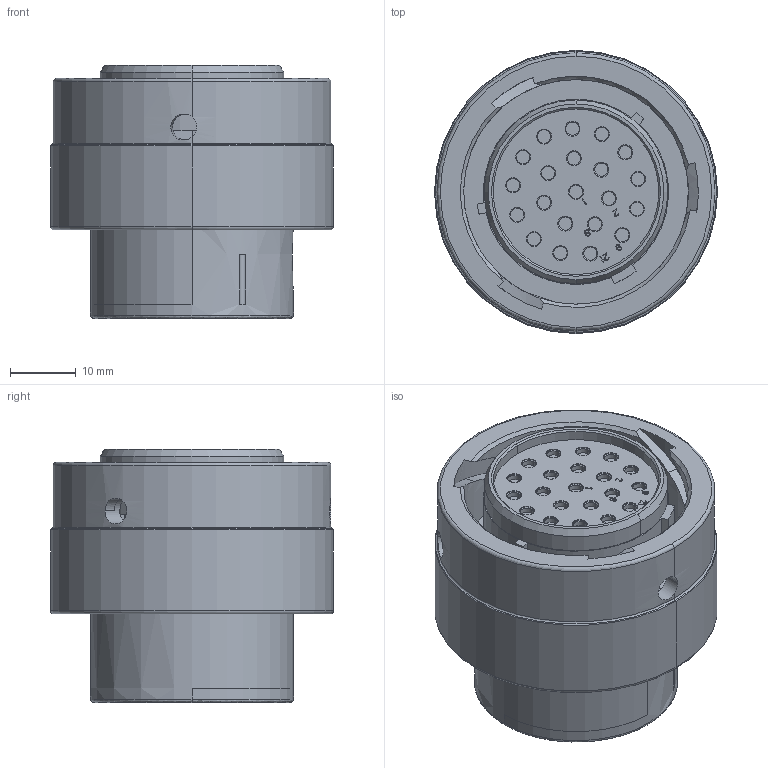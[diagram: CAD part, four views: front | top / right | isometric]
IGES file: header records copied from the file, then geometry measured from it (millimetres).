
Start section:  PTC IGES file: c-hdp26-18-21sn-99-3d.igs
Global section: file name: c-hdp26-18-21sn-99-3d.igs; native system: Pro/ENGINEER by Parametric Technology Corporation; preprocessor: 2011490; author: workeradm; organization: Unknown; units: millimetre
Bounding box: 43.18 x 43.18 x 38.63 mm (x, y, z)
Surface area: 12239.1 mm2 (no closed solid volume)
Topology: 0 solids, 0 shells, 641 faces, 3064 edges, 3064 vertices
Faces by surface type: bspline 325, revolution 316
